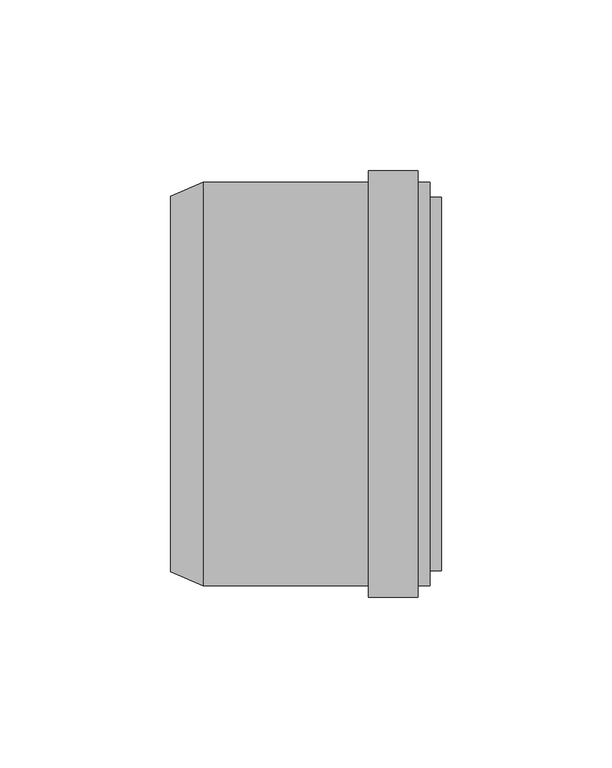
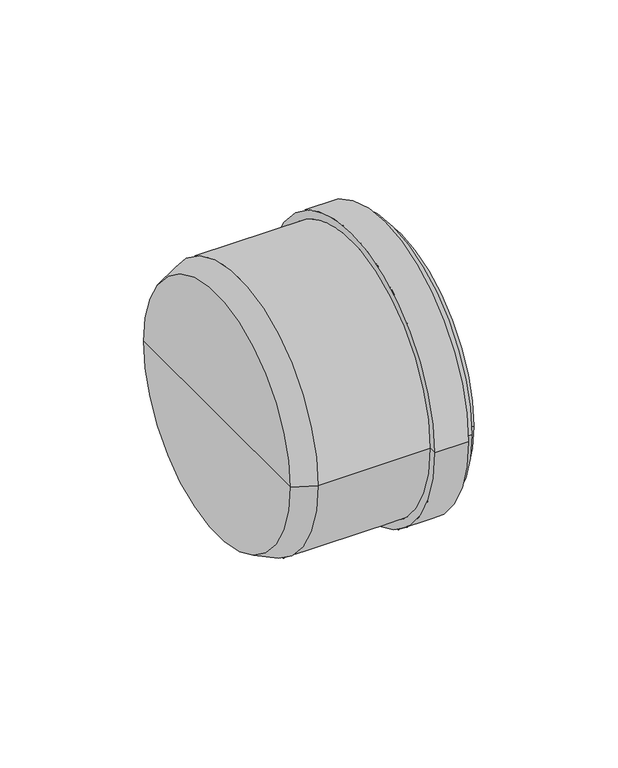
"""IFC4 building model written with IfcOpenShell, lengths in millimetres: pipe fitting geometry, pf_HTRi : pf_HTRi."""

from ifc_helpers import new_model, si_unit, frame, origin, place, context, project, spatial, polyline, circle_curve, source, transform, mapped, element, save
from ifc_brep_helpers import plane_surface, cylinder_surface, revolved_surface, advanced_brep


def pipe_fitting_79d1944f(model_context):
    return source(origin(), model_context, "Body", "AdvancedBrep", [
        advanced_brep(
        [(-79.4, -55.0, 0.0), (-79.4, 55.0, 0.0), (-69.9, 59.1, 0.0), (-69.9, -59.1, 0.0), (-79.4, 0.0, 0.0), (-3.4, -59.1, 0.0), (-3.4, 59.1, 0.0), (-3.4, 0.0, 0.0), (-6.8, -59.1, 0.0), (-6.8, 59.1, 0.0), (-6.8, -62.5, 0.0), (-6.8, 62.5, 0.0), (-21.3, -62.5, 0.0), (-21.3, 62.5, 0.0), (-21.3, -59.1, 0.0), (-21.3, 59.1, 0.0)],
        [
            (0, 1, circle_curve(frame((-79.4, 0.0, 0.0), z_axis=(1.0, 0.0, 0.0), x_axis=(0.0, 1.0, 0.0)), 55.0)),
            (1, 2),
            (2, 3, circle_curve(frame((-69.9, 0.0, 0.0), z_axis=(-1.0, 0.0, 0.0), x_axis=(0.0, 1.0, 0.0)), 59.1)),
            (3, 0),
            (1, 0, circle_curve(frame((-79.4, 0.0, 0.0), z_axis=(1.0, 0.0, 0.0), x_axis=(0.0, 1.0, 0.0)), 55.0)),
            (3, 2, circle_curve(frame((-69.9, 0.0, 0.0), z_axis=(-1.0, 0.0, 0.0), x_axis=(0.0, 1.0, 0.0)), 59.1)),
            (4, 1),
            (0, 4),
            (5, 6, circle_curve(frame((-3.4, 0.0, 0.0), z_axis=(1.0, 0.0, 0.0), x_axis=(0.0, 1.0, 0.0)), 59.1)),
            (6, 7),
            (7, 5),
            (6, 5, circle_curve(frame((-3.4, 0.0, 0.0), z_axis=(1.0, 0.0, 0.0), x_axis=(0.0, 1.0, 0.0)), 59.1)),
            (8, 9, circle_curve(frame((-6.8, 0.0, 0.0), z_axis=(1.0, 0.0, 0.0), x_axis=(0.0, 1.0, 0.0)), 59.1)),
            (9, 6),
            (5, 8),
            (9, 8, circle_curve(frame((-6.8, 0.0, 0.0), z_axis=(1.0, 0.0, 0.0), x_axis=(0.0, 1.0, 0.0)), 59.1)),
            (10, 11, circle_curve(frame((-6.8, 0.0, 0.0), z_axis=(1.0, 0.0, 0.0), x_axis=(0.0, 1.0, 0.0)), 62.5)),
            (11, 9),
            (8, 10),
            (11, 10, circle_curve(frame((-6.8, 0.0, 0.0), z_axis=(1.0, 0.0, 0.0), x_axis=(0.0, 1.0, 0.0)), 62.5)),
            (12, 13, circle_curve(frame((-21.3, 0.0, 0.0), z_axis=(1.0, 0.0, 0.0), x_axis=(0.0, 1.0, 0.0)), 62.5)),
            (13, 11),
            (10, 12),
            (13, 12, circle_curve(frame((-21.3, 0.0, 0.0), z_axis=(1.0, 0.0, 0.0), x_axis=(0.0, 1.0, 0.0)), 62.5)),
            (14, 15, circle_curve(frame((-21.3, 0.0, 0.0), z_axis=(1.0, 0.0, 0.0), x_axis=(0.0, 1.0, 0.0)), 59.1)),
            (15, 13),
            (12, 14),
            (15, 14, circle_curve(frame((-21.3, 0.0, 0.0), z_axis=(1.0, 0.0, 0.0), x_axis=(0.0, 1.0, 0.0)), 59.1)),
            (2, 15),
            (14, 3),
        ],
        [
            revolved_surface(polyline([(-69.9, 59.1, 0.0), (-79.4, 55.0, 0.0)]), (-79.4, 0.0, 0.0), (-1.0, 0.0, 0.0)),
            plane_surface(frame((-79.4, 0.0, 0.0), z_axis=(-1.0, 0.0, 0.0), x_axis=(0.0, 1.0, 0.0))),
            plane_surface(frame((-3.4, 0.0, 0.0), z_axis=(1.0, 0.0, 0.0), x_axis=(0.0, 1.0, 0.0))),
            cylinder_surface(frame((-79.4, 0.0, 0.0), z_axis=(-1.0, 0.0, 0.0), x_axis=(0.0, 1.0, 0.0)), 59.1),
            plane_surface(frame((-6.8, 0.0, 0.0), z_axis=(1.0, 0.0, 0.0), x_axis=(0.0, 1.0, 0.0))),
            cylinder_surface(frame((-79.4, 0.0, 0.0), z_axis=(-1.0, 0.0, 0.0), x_axis=(0.0, 1.0, 0.0)), 62.5),
            plane_surface(frame((-21.3, 0.0, 0.0), z_axis=(-1.0, 0.0, 0.0), x_axis=(0.0, 1.0, 0.0))),
        ],
        [
            (0, [[1, 2, 3, 4]]),
            (0, [[5, -4, 6, -2]]),
            (1, [[7, -1, 8]]),
            (1, [[-8, -5, -7]]),
            (2, [[9, 10, 11]]),
            (2, [[12, -11, -10]]),
            (3, [[13, 14, -9, 15]]),
            (3, [[16, -15, -12, -14]]),
            (4, [[17, 18, -13, 19]]),
            (4, [[20, -19, -16, -18]]),
            (5, [[21, 22, -17, 23]]),
            (5, [[24, -23, -20, -22]]),
            (6, [[25, 26, -21, 27]]),
            (6, [[28, -27, -24, -26]]),
            (3, [[-3, 29, -25, 30]]),
            (3, [[-6, -30, -28, -29]]),
        ],
    ),
        advanced_brep(
        [(-56.0, -25.0, 0.0), (-56.0, 25.0, 0.0), (-47.5, 28.1, 0.0), (-47.5, -28.1, 0.0), (-56.0, 0.0, 0.0), (0.0, -28.1, 0.0), (0.0, 28.1, 0.0), (0.0, 0.0, 0.0), (-3.4, -28.1, 0.0), (-3.4, 28.1, 0.0), (-3.4, -31.5, 0.0), (-3.4, 31.5, 0.0), (-14.8, -31.5, 0.0), (-14.8, 31.5, 0.0), (-14.8, -28.1, 0.0), (-14.8, 28.1, 0.0)],
        [
            (0, 1, circle_curve(frame((-56.0, 0.0, 0.0), z_axis=(1.0, 0.0, 0.0), x_axis=(0.0, 1.0, 0.0)), 25.0)),
            (1, 2),
            (2, 3, circle_curve(frame((-47.5, 0.0, 0.0), z_axis=(-1.0, 0.0, 0.0), x_axis=(0.0, 1.0, 0.0)), 28.1)),
            (3, 0),
            (1, 0, circle_curve(frame((-56.0, 0.0, 0.0), z_axis=(1.0, 0.0, 0.0), x_axis=(0.0, 1.0, 0.0)), 25.0)),
            (3, 2, circle_curve(frame((-47.5, 0.0, 0.0), z_axis=(-1.0, 0.0, 0.0), x_axis=(0.0, 1.0, 0.0)), 28.1)),
            (4, 1),
            (0, 4),
            (5, 6, circle_curve(frame((0.0, 0.0, 0.0), z_axis=(1.0, 0.0, 0.0), x_axis=(0.0, 1.0, 0.0)), 28.1)),
            (6, 7),
            (7, 5),
            (6, 5, circle_curve(frame((0.0, 0.0, 0.0), z_axis=(1.0, 0.0, 0.0), x_axis=(0.0, 1.0, 0.0)), 28.1)),
            (8, 9, circle_curve(frame((-3.4, 0.0, 0.0), z_axis=(1.0, 0.0, 0.0), x_axis=(0.0, 1.0, 0.0)), 28.1)),
            (9, 6),
            (5, 8),
            (9, 8, circle_curve(frame((-3.4, 0.0, 0.0), z_axis=(1.0, 0.0, 0.0), x_axis=(0.0, 1.0, 0.0)), 28.1)),
            (10, 11, circle_curve(frame((-3.4, 0.0, 0.0), z_axis=(1.0, 0.0, 0.0), x_axis=(0.0, 1.0, 0.0)), 31.5)),
            (11, 9),
            (8, 10),
            (11, 10, circle_curve(frame((-3.4, 0.0, 0.0), z_axis=(1.0, 0.0, 0.0), x_axis=(0.0, 1.0, 0.0)), 31.5)),
            (12, 13, circle_curve(frame((-14.8, 0.0, 0.0), z_axis=(1.0, 0.0, 0.0), x_axis=(0.0, 1.0, 0.0)), 31.5)),
            (13, 11),
            (10, 12),
            (13, 12, circle_curve(frame((-14.8, 0.0, 0.0), z_axis=(1.0, 0.0, 0.0), x_axis=(0.0, 1.0, 0.0)), 31.5)),
            (14, 15, circle_curve(frame((-14.8, 0.0, 0.0), z_axis=(1.0, 0.0, 0.0), x_axis=(0.0, 1.0, 0.0)), 28.1)),
            (15, 13),
            (12, 14),
            (15, 14, circle_curve(frame((-14.8, 0.0, 0.0), z_axis=(1.0, 0.0, 0.0), x_axis=(0.0, 1.0, 0.0)), 28.1)),
            (2, 15),
            (14, 3),
        ],
        [
            revolved_surface(polyline([(-47.5, 28.1, 0.0), (-56.0, 25.0, 0.0)]), (-56.0, 0.0, 0.0), (-1.0, 0.0, 0.0)),
            plane_surface(frame((-56.0, 0.0, 0.0), z_axis=(-1.0, 0.0, 0.0), x_axis=(0.0, 1.0, 0.0))),
            plane_surface(frame((0.0, 0.0, 0.0), z_axis=(1.0, 0.0, 0.0), x_axis=(0.0, 1.0, 0.0))),
            cylinder_surface(frame((-56.0, 0.0, 0.0), z_axis=(-1.0, 0.0, 0.0), x_axis=(0.0, 1.0, 0.0)), 28.1),
            plane_surface(frame((-3.4, 0.0, 0.0), z_axis=(1.0, 0.0, 0.0), x_axis=(0.0, 1.0, 0.0))),
            cylinder_surface(frame((-56.0, 0.0, 0.0), z_axis=(-1.0, 0.0, 0.0), x_axis=(0.0, 1.0, 0.0)), 31.5),
            plane_surface(frame((-14.8, 0.0, 0.0), z_axis=(-1.0, 0.0, 0.0), x_axis=(0.0, 1.0, 0.0))),
        ],
        [
            (0, [[1, 2, 3, 4]]),
            (0, [[5, -4, 6, -2]]),
            (1, [[7, -1, 8]]),
            (1, [[-8, -5, -7]]),
            (2, [[9, 10, 11]]),
            (2, [[12, -11, -10]]),
            (3, [[13, 14, -9, 15]]),
            (3, [[16, -15, -12, -14]]),
            (4, [[17, 18, -13, 19]]),
            (4, [[20, -19, -16, -18]]),
            (5, [[21, 22, -17, 23]]),
            (5, [[24, -23, -20, -22]]),
            (6, [[25, 26, -21, 27]]),
            (6, [[28, -27, -24, -26]]),
            (3, [[-3, 29, -25, 30]]),
            (3, [[-6, -30, -28, -29]]),
        ],
    ),
        advanced_brep(
        [(0.0, -42.3, 0.0), (0.0, 42.3, 0.0), (-3.4, 42.3, 0.0), (-3.4, -42.3, 0.0), (0.0, -54.7, 0.0), (0.0, 54.7, 0.0), (-3.4, -54.7, 0.0), (-3.4, 54.7, 0.0), (-3.4, -44.8, 0.0), (-3.4, 44.8, 0.0), (-8.4, -44.8, 0.0), (-8.4, 44.8, 0.0), (-8.4, 0.0, 0.0), (-3.4, 0.0, 0.0)],
        [
            (0, 1, circle_curve(frame((0.0, 0.0, 0.0), z_axis=(1.0, 0.0, 0.0), x_axis=(0.0, 1.0, 0.0)), 42.3)),
            (1, 2),
            (2, 3, circle_curve(frame((-3.4, 0.0, 0.0), z_axis=(-1.0, 0.0, 0.0), x_axis=(0.0, 1.0, 0.0)), 42.3)),
            (3, 0),
            (1, 0, circle_curve(frame((0.0, 0.0, 0.0), z_axis=(1.0, 0.0, 0.0), x_axis=(0.0, 1.0, 0.0)), 42.3)),
            (3, 2, circle_curve(frame((-3.4, 0.0, 0.0), z_axis=(-1.0, 0.0, 0.0), x_axis=(0.0, 1.0, 0.0)), 42.3)),
            (4, 5, circle_curve(frame((0.0, 0.0, 0.0), z_axis=(1.0, 0.0, 0.0), x_axis=(0.0, 1.0, 0.0)), 54.7)),
            (5, 1),
            (0, 4),
            (5, 4, circle_curve(frame((0.0, 0.0, 0.0), z_axis=(1.0, 0.0, 0.0), x_axis=(0.0, 1.0, 0.0)), 54.7)),
            (6, 7, circle_curve(frame((-3.4, 0.0, 0.0), z_axis=(1.0, 0.0, 0.0), x_axis=(0.0, 1.0, 0.0)), 54.7)),
            (7, 5),
            (4, 6),
            (7, 6, circle_curve(frame((-3.4, 0.0, 0.0), z_axis=(1.0, 0.0, 0.0), x_axis=(0.0, 1.0, 0.0)), 54.7)),
            (8, 9, circle_curve(frame((-3.4, 0.0, 0.0), z_axis=(1.0, 0.0, 0.0), x_axis=(0.0, 1.0, 0.0)), 44.8)),
            (9, 7),
            (6, 8),
            (9, 8, circle_curve(frame((-3.4, 0.0, 0.0), z_axis=(1.0, 0.0, 0.0), x_axis=(0.0, 1.0, 0.0)), 44.8)),
            (10, 11, circle_curve(frame((-8.4, 0.0, 0.0), z_axis=(1.0, 0.0, 0.0), x_axis=(0.0, 1.0, 0.0)), 44.8)),
            (11, 9),
            (8, 10),
            (11, 10, circle_curve(frame((-8.4, 0.0, 0.0), z_axis=(1.0, 0.0, 0.0), x_axis=(0.0, 1.0, 0.0)), 44.8)),
            (12, 11),
            (10, 12),
            (2, 13),
            (13, 3),
        ],
        [
            revolved_surface(polyline([(-3.3999999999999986, 42.3, 0.0), (0.0, 42.3, 0.0)]), (-40.7726917, 0.0, 0.0), (-1.0, 0.0, 0.0)),
            plane_surface(frame((0.0, 0.0, 0.0), z_axis=(1.0, 0.0, 0.0), x_axis=(0.0, 1.0, 0.0))),
            cylinder_surface(frame((-40.7726917, 0.0, 0.0), z_axis=(-1.0, 0.0, 0.0), x_axis=(0.0, 1.0, 0.0)), 54.7),
            plane_surface(frame((-3.4, 0.0, 0.0), z_axis=(-1.0, 0.0, 0.0), x_axis=(0.0, 1.0, 0.0))),
            cylinder_surface(frame((-40.7726917, 0.0, 0.0), z_axis=(-1.0, 0.0, 0.0), x_axis=(0.0, 1.0, 0.0)), 44.8),
            plane_surface(frame((-8.4, 0.0, 0.0), z_axis=(-1.0, 0.0, 0.0), x_axis=(0.0, 1.0, 0.0))),
            plane_surface(frame((-3.4, 0.0, 0.0), z_axis=(1.0, 0.0, 0.0), x_axis=(0.0, 1.0, 0.0))),
        ],
        [
            (0, [[1, 2, 3, 4]]),
            (0, [[5, -4, 6, -2]]),
            (1, [[7, 8, -1, 9]]),
            (1, [[10, -9, -5, -8]]),
            (2, [[11, 12, -7, 13]]),
            (2, [[14, -13, -10, -12]]),
            (3, [[15, 16, -11, 17]]),
            (3, [[18, -17, -14, -16]]),
            (4, [[19, 20, -15, 21]]),
            (4, [[22, -21, -18, -20]]),
            (5, [[23, -19, 24]]),
            (5, [[-24, -22, -23]]),
            (6, [[-3, 25, 26]]),
            (6, [[-6, -26, -25]]),
        ],
    ),
    ])


if __name__ == "__main__":
    model = new_model("IFC4")
    model_context = context("Model", 3, world=origin())
    ifc_project = project(units=[si_unit("LENGTHUNIT", "METRE", prefix="MILLI")], contexts=[model_context])
    site = spatial("IfcSite", under=ifc_project)
    building = spatial("IfcBuilding", under=site)
    placement = place(None, origin())
    pipe_fitting_shape = pipe_fitting_79d1944f(model_context)
    element("IfcPipeFitting", 1, ObjectType="pf_HTRi : pf_HTRi", at=placement, inside=building, context=model_context, shape_type="MappedRepresentation", body=[
        mapped(pipe_fitting_shape, transform((0.0, 0.0, 0.0), x_axis=(1.0, 0.0, 0.0), y_axis=(0.0, 1.0, 0.0), z_axis=(0.0, 0.0, 1.0))),
    ])
    save(model, "model.ifc")
